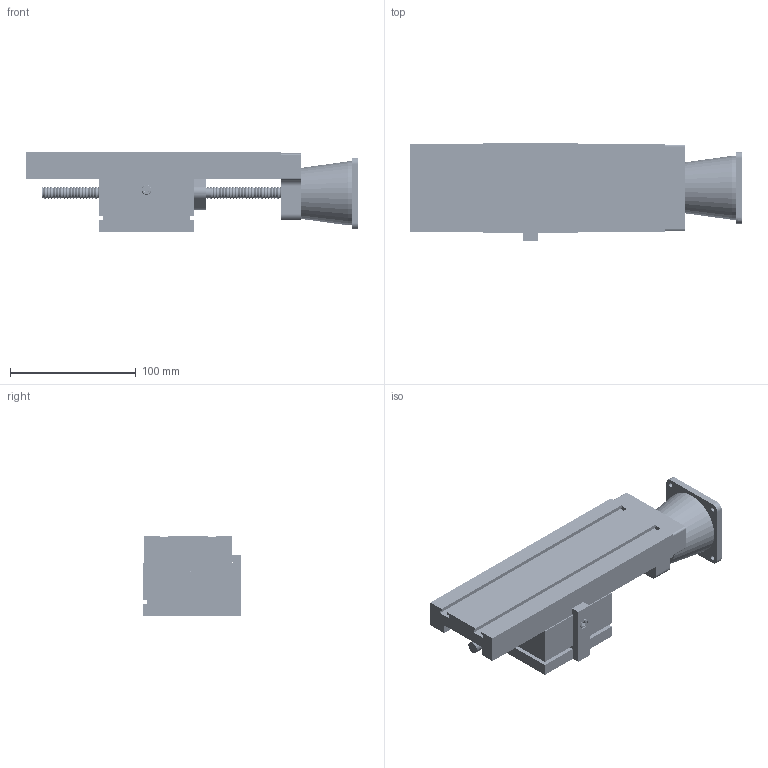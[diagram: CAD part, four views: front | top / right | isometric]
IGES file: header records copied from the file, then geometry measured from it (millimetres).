
Start section: Comment
Global section: file name: 6552 BLS CNC ready.igs; native system:  By Spatial Corp.; preprocessor: XPlus PS/IGES 3.0; author: Author; organization: Title; date: 20190325.094235; units: inch
Bounding box: 264.19 x 77.38 x 64.21 mm (x, y, z)
Surface area: 124647 mm2 (no closed solid volume)
Topology: 0 solids, 0 shells, 2468 faces, 16318 edges, 16316 vertices
Faces by surface type: revolution 2236, extrusion 212, bspline 20
